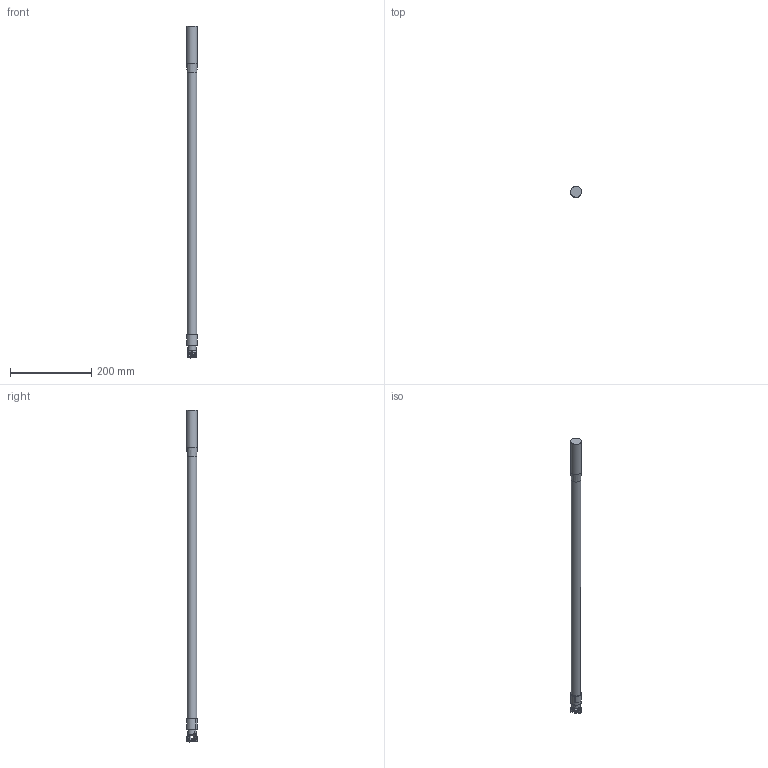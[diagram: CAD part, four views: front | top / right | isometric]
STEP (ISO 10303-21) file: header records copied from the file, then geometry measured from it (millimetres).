
FILE_DESCRIPTION (( 'STEP AP214' ), '1' );
FILE_NAME ('IRB360_X-1600-STD-4D_rev04_ML_CAD.step', '2025-01-27T14:53:09', ( '' ), ( '' ), 'SwSTEP 2.0', 'SolidWorks 2022', '' );
FILE_SCHEMA (( 'AUTOMOTIVE_DESIGN' ));
Length unit declared in the file: millimetre
Products named in the file (1): IRB360_X-1600-STD-4D_rev04_ML_CAD
Bounding box: 26.95 x 26.95 x 815.8 mm (x, y, z)
Volume: 363844 mm3; surface area: 68584.3 mm2
Topology: 6 solids, 6 shells, 157 faces, 351 edges, 212 vertices
Faces by surface type: cylinder 62, plane 36, torus 34, cone 25
Entity records: 4852 total; most frequent: CARTESIAN_POINT 1245, DIRECTION 795, ORIENTED_EDGE 702, EDGE_CURVE 351, AXIS2_PLACEMENT_3D 342, VERTEX_POINT 212, CIRCLE 184, EDGE_LOOP 169
